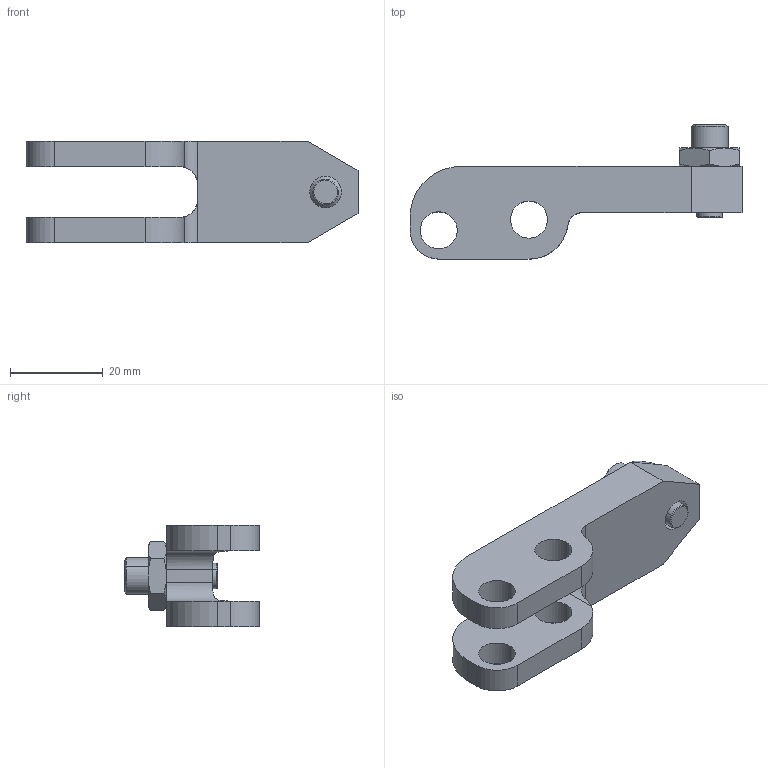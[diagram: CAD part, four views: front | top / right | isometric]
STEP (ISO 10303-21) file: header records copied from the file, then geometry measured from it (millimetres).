
FILE_DESCRIPTION (( 'STEP AP214' ), '1' );
FILE_NAME ('ITLC28L-002.STEP', '2017-03-20T12:19:08', ( '' ), ( '' ), 'SwSTEP 2.0', 'SolidWorks 2014', '' );
FILE_SCHEMA (( 'AUTOMOTIVE_DESIGN' ));
Length unit declared in the file: millimetre
Products named in the file (4): MutterM8-DIN439; DIN 915 - 8.8_DIN 915 - M8 x 20; 2022002; ITLC28L-002
Assembly tree (3 placements, depth 2):
  ITLC28L-002
    2022002
    DIN 915 - 8.8_DIN 915 - M8 x 20
    MutterM8-DIN439
Bounding box: 71.7 x 29 x 22 mm (x, y, z)
Volume: 14086.5 mm3; surface area: 7289.4 mm2
Topology: 3 solids, 3 shells, 80 faces, 193 edges, 120 vertices
Faces by surface type: plane 31, cylinder 25, cone 22, torus 2
Entity records: 2637 total; most frequent: CARTESIAN_POINT 527, DIRECTION 409, ORIENTED_EDGE 386, EDGE_CURVE 193, AXIS2_PLACEMENT_3D 158, VERTEX_POINT 120, LINE 93, EDGE_LOOP 93
